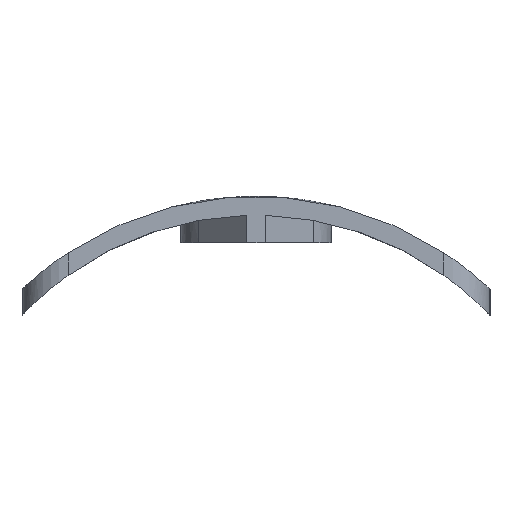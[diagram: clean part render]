
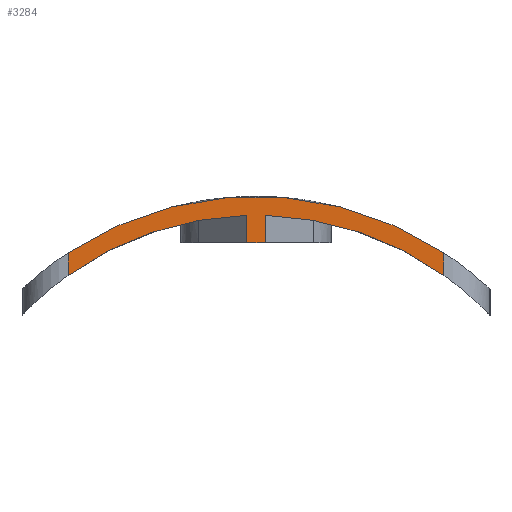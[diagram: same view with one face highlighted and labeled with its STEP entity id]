
A CAD part, left-side view. The second image highlights one B-rep face of the part: STEP entity #3284.
In plain terms, the highlighted planar face has unit normal (-1, 0, 0).
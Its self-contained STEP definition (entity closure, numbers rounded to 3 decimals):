
#22 = VERTEX_POINT('',#23);
#23 = CARTESIAN_POINT('',(96.3,11.,16.703));
#61 = CYLINDRICAL_SURFACE('',#62,20.);
#62 = AXIS2_PLACEMENT_3D('',#63,#64,#65);
#63 = CARTESIAN_POINT('',(95.,0.,0.));
#64 = DIRECTION('',(1.,0.,0.));
#65 = DIRECTION('',(-0.,0.,1.));
#102 = CYLINDRICAL_SURFACE('',#103,2.7);
#103 = AXIS2_PLACEMENT_3D('',#104,#105,#106);
#104 = CARTESIAN_POINT('',(99.,11.,5.));
#105 = DIRECTION('',(0.,0.,1.));
#106 = DIRECTION('',(-1.,-0.,0.));
#143 = EDGE_CURVE('',#22,#144,#146,.T.);
#144 = VERTEX_POINT('',#145);
#145 = CARTESIAN_POINT('',(96.3,-11.,16.703));
#146 = SURFACE_CURVE('',#147,(#152,#159),.PCURVE_S1.);
#147 = CIRCLE('',#148,20.);
#148 = AXIS2_PLACEMENT_3D('',#149,#150,#151);
#149 = CARTESIAN_POINT('',(96.3,0.,0.));
#150 = DIRECTION('',(1.,0.,0.));
#151 = DIRECTION('',(-0.,0.55,0.835));
#152 = PCURVE('',#61,#153);
#153 = DEFINITIONAL_REPRESENTATION('',(#154),#158);
#154 = LINE('',#155,#156);
#155 = CARTESIAN_POINT('',(5.701,1.3));
#156 = VECTOR('',#157,1.);
#157 = DIRECTION('',(1.,0.));
#158 = ( GEOMETRIC_REPRESENTATION_CONTEXT(2) 
PARAMETRIC_REPRESENTATION_CONTEXT() REPRESENTATION_CONTEXT('2D SPACE',''
  ) );
#159 = PCURVE('',#160,#165);
#160 = PLANE('',#161);
#161 = AXIS2_PLACEMENT_3D('',#162,#163,#164);
#162 = CARTESIAN_POINT('',(96.3,-13.7,5.));
#163 = DIRECTION('',(1.,0.,0.));
#164 = DIRECTION('',(0.,0.,1.));
#165 = DEFINITIONAL_REPRESENTATION('',(#166),#170);
#166 = CIRCLE('',#167,20.);
#167 = AXIS2_PLACEMENT_2D('',#168,#169);
#168 = CARTESIAN_POINT('',(-5.,-13.7));
#169 = DIRECTION('',(0.835,-0.55));
#170 = ( GEOMETRIC_REPRESENTATION_CONTEXT(2) 
PARAMETRIC_REPRESENTATION_CONTEXT() REPRESENTATION_CONTEXT('2D SPACE',''
  ) );
#246 = CYLINDRICAL_SURFACE('',#247,2.7);
#247 = AXIS2_PLACEMENT_3D('',#248,#249,#250);
#248 = CARTESIAN_POINT('',(99.,-11.,5.));
#249 = DIRECTION('',(0.,0.,1.));
#250 = DIRECTION('',(-1.,-0.,0.));
#1374 = PLANE('',#1375);
#1375 = AXIS2_PLACEMENT_3D('',#1376,#1377,#1378);
#1376 = CARTESIAN_POINT('',(102.5,0.,17.3));
#1377 = DIRECTION('',(0.,0.,1.));
#1378 = DIRECTION('',(1.,0.,-0.));
#1422 = VERTEX_POINT('',#1423);
#1423 = CARTESIAN_POINT('',(96.3,0.541,17.3));
#1437 = PLANE('',#1438);
#1438 = AXIS2_PLACEMENT_3D('',#1439,#1440,#1441);
#1439 = CARTESIAN_POINT('',(95.655,0.,17.3));
#1440 = DIRECTION('',(-0.643,0.766,0.));
#1441 = DIRECTION('',(0.766,0.643,0.));
#1449 = EDGE_CURVE('',#1422,#1450,#1452,.T.);
#1450 = VERTEX_POINT('',#1451);
#1451 = CARTESIAN_POINT('',(96.3,-0.541,17.3));
#1452 = SURFACE_CURVE('',#1453,(#1457,#1464),.PCURVE_S1.);
#1453 = LINE('',#1454,#1455);
#1454 = CARTESIAN_POINT('',(96.3,-10.,17.3));
#1455 = VECTOR('',#1456,1.);
#1456 = DIRECTION('',(0.,-1.,0.));
#1457 = PCURVE('',#1374,#1458);
#1458 = DEFINITIONAL_REPRESENTATION('',(#1459),#1463);
#1459 = LINE('',#1460,#1461);
#1460 = CARTESIAN_POINT('',(-6.2,-10.));
#1461 = VECTOR('',#1462,1.);
#1462 = DIRECTION('',(0.,-1.));
#1463 = ( GEOMETRIC_REPRESENTATION_CONTEXT(2) 
PARAMETRIC_REPRESENTATION_CONTEXT() REPRESENTATION_CONTEXT('2D SPACE',''
  ) );
#1464 = PCURVE('',#160,#1465);
#1465 = DEFINITIONAL_REPRESENTATION('',(#1466),#1470);
#1466 = LINE('',#1467,#1468);
#1467 = CARTESIAN_POINT('',(12.3,-3.7));
#1468 = VECTOR('',#1469,1.);
#1469 = DIRECTION('',(0.,1.));
#1470 = ( GEOMETRIC_REPRESENTATION_CONTEXT(2) 
PARAMETRIC_REPRESENTATION_CONTEXT() REPRESENTATION_CONTEXT('2D SPACE',''
  ) );
#1486 = PLANE('',#1487);
#1487 = AXIS2_PLACEMENT_3D('',#1488,#1489,#1490);
#1488 = CARTESIAN_POINT('',(99.672,-3.371,17.3));
#1489 = DIRECTION('',(-0.643,-0.766,0.));
#1490 = DIRECTION('',(-0.766,0.643,0.));
#1528 = VERTEX_POINT('',#1529);
#1529 = CARTESIAN_POINT('',(96.3,-0.541,18.892));
#1544 = CYLINDRICAL_SURFACE('',#1545,18.9);
#1545 = AXIS2_PLACEMENT_3D('',#1546,#1547,#1548);
#1546 = CARTESIAN_POINT('',(94.,0.,0.));
#1547 = DIRECTION('',(1.,0.,0.));
#1548 = DIRECTION('',(-0.,0.,1.));
#1559 = EDGE_CURVE('',#1450,#1528,#1560,.T.);
#1560 = SURFACE_CURVE('',#1561,(#1565,#1571),.PCURVE_S1.);
#1561 = LINE('',#1562,#1563);
#1562 = CARTESIAN_POINT('',(96.3,-0.541,8.65));
#1563 = VECTOR('',#1564,1.);
#1564 = DIRECTION('',(0.,0.,1.));
#1565 = PCURVE('',#1486,#1566);
#1566 = DEFINITIONAL_REPRESENTATION('',(#1567),#1570);
#1567 = B_SPLINE_CURVE_WITH_KNOTS('',1,(#1568,#1569),.UNSPECIFIED.,.F.,
  .F.,(2,2),(8.65,10.55),.PIECEWISE_BEZIER_KNOTS.);
#1568 = CARTESIAN_POINT('',(4.401,0.));
#1569 = CARTESIAN_POINT('',(4.401,-1.9));
#1570 = ( GEOMETRIC_REPRESENTATION_CONTEXT(2) 
PARAMETRIC_REPRESENTATION_CONTEXT() REPRESENTATION_CONTEXT('2D SPACE',''
  ) );
#1571 = PCURVE('',#160,#1572);
#1572 = DEFINITIONAL_REPRESENTATION('',(#1573),#1577);
#1573 = LINE('',#1574,#1575);
#1574 = CARTESIAN_POINT('',(3.65,-13.159));
#1575 = VECTOR('',#1576,1.);
#1576 = DIRECTION('',(1.,0.));
#1577 = ( GEOMETRIC_REPRESENTATION_CONTEXT(2) 
PARAMETRIC_REPRESENTATION_CONTEXT() REPRESENTATION_CONTEXT('2D SPACE',''
  ) );
#1841 = EDGE_CURVE('',#1528,#1842,#1844,.T.);
#1842 = VERTEX_POINT('',#1843);
#1843 = CARTESIAN_POINT('',(96.3,-11.,15.369));
#1844 = SURFACE_CURVE('',#1845,(#1850,#1856),.PCURVE_S1.);
#1845 = CIRCLE('',#1846,18.9);
#1846 = AXIS2_PLACEMENT_3D('',#1847,#1848,#1849);
#1847 = CARTESIAN_POINT('',(96.3,0.,0.));
#1848 = DIRECTION('',(1.,0.,0.));
#1849 = DIRECTION('',(-0.,0.,1.));
#1850 = PCURVE('',#1544,#1851);
#1851 = DEFINITIONAL_REPRESENTATION('',(#1852),#1855);
#1852 = B_SPLINE_CURVE_WITH_KNOTS('',1,(#1853,#1854),.UNSPECIFIED.,.F.,
  .F.,(2,2),(0.029,0.621),
  .PIECEWISE_BEZIER_KNOTS.);
#1853 = CARTESIAN_POINT('',(6.312,2.3));
#1854 = CARTESIAN_POINT('',(6.904,2.3));
#1855 = ( GEOMETRIC_REPRESENTATION_CONTEXT(2) 
PARAMETRIC_REPRESENTATION_CONTEXT() REPRESENTATION_CONTEXT('2D SPACE',''
  ) );
#1856 = PCURVE('',#160,#1857);
#1857 = DEFINITIONAL_REPRESENTATION('',(#1858),#1862);
#1858 = CIRCLE('',#1859,18.9);
#1859 = AXIS2_PLACEMENT_2D('',#1860,#1861);
#1860 = CARTESIAN_POINT('',(-5.,-13.7));
#1861 = DIRECTION('',(1.,0.));
#1862 = ( GEOMETRIC_REPRESENTATION_CONTEXT(2) 
PARAMETRIC_REPRESENTATION_CONTEXT() REPRESENTATION_CONTEXT('2D SPACE',''
  ) );
#2265 = VERTEX_POINT('',#2266);
#2266 = CARTESIAN_POINT('',(96.3,11.,15.369));
#2374 = EDGE_CURVE('',#2265,#2375,#2377,.T.);
#2375 = VERTEX_POINT('',#2376);
#2376 = CARTESIAN_POINT('',(96.3,0.541,18.892));
#2377 = SURFACE_CURVE('',#2378,(#2383,#2389),.PCURVE_S1.);
#2378 = CIRCLE('',#2379,18.9);
#2379 = AXIS2_PLACEMENT_3D('',#2380,#2381,#2382);
#2380 = CARTESIAN_POINT('',(96.3,0.,0.));
#2381 = DIRECTION('',(1.,0.,0.));
#2382 = DIRECTION('',(-0.,0.,1.));
#2383 = PCURVE('',#1544,#2384);
#2384 = DEFINITIONAL_REPRESENTATION('',(#2385),#2388);
#2385 = B_SPLINE_CURVE_WITH_KNOTS('',1,(#2386,#2387),.UNSPECIFIED.,.F.,
  .F.,(2,2),(5.662,6.255),.PIECEWISE_BEZIER_KNOTS.);
#2386 = CARTESIAN_POINT('',(5.662,2.3));
#2387 = CARTESIAN_POINT('',(6.255,2.3));
#2388 = ( GEOMETRIC_REPRESENTATION_CONTEXT(2) 
PARAMETRIC_REPRESENTATION_CONTEXT() REPRESENTATION_CONTEXT('2D SPACE',''
  ) );
#2389 = PCURVE('',#160,#2390);
#2390 = DEFINITIONAL_REPRESENTATION('',(#2391),#2395);
#2391 = CIRCLE('',#2392,18.9);
#2392 = AXIS2_PLACEMENT_2D('',#2393,#2394);
#2393 = CARTESIAN_POINT('',(-5.,-13.7));
#2394 = DIRECTION('',(1.,0.));
#2395 = ( GEOMETRIC_REPRESENTATION_CONTEXT(2) 
PARAMETRIC_REPRESENTATION_CONTEXT() REPRESENTATION_CONTEXT('2D SPACE',''
  ) );
#3028 = EDGE_CURVE('',#2375,#1422,#3029,.T.);
#3029 = SURFACE_CURVE('',#3030,(#3034,#3040),.PCURVE_S1.);
#3030 = LINE('',#3031,#3032);
#3031 = CARTESIAN_POINT('',(96.3,0.541,8.65));
#3032 = VECTOR('',#3033,1.);
#3033 = DIRECTION('',(-0.,0.,-1.));
#3034 = PCURVE('',#1437,#3035);
#3035 = DEFINITIONAL_REPRESENTATION('',(#3036),#3039);
#3036 = B_SPLINE_CURVE_WITH_KNOTS('',1,(#3037,#3038),.UNSPECIFIED.,.F.,
  .F.,(2,2),(-10.55,-8.65),.PIECEWISE_BEZIER_KNOTS.);
#3037 = CARTESIAN_POINT('',(0.842,-1.9));
#3038 = CARTESIAN_POINT('',(0.842,0.));
#3039 = ( GEOMETRIC_REPRESENTATION_CONTEXT(2) 
PARAMETRIC_REPRESENTATION_CONTEXT() REPRESENTATION_CONTEXT('2D SPACE',''
  ) );
#3040 = PCURVE('',#160,#3041);
#3041 = DEFINITIONAL_REPRESENTATION('',(#3042),#3046);
#3042 = LINE('',#3043,#3044);
#3043 = CARTESIAN_POINT('',(3.65,-14.241));
#3044 = VECTOR('',#3045,1.);
#3045 = DIRECTION('',(-1.,-0.));
#3046 = ( GEOMETRIC_REPRESENTATION_CONTEXT(2) 
PARAMETRIC_REPRESENTATION_CONTEXT() REPRESENTATION_CONTEXT('2D SPACE',''
  ) );
#3261 = EDGE_CURVE('',#1842,#144,#3262,.T.);
#3262 = SURFACE_CURVE('',#3263,(#3267,#3274),.PCURVE_S1.);
#3263 = LINE('',#3264,#3265);
#3264 = CARTESIAN_POINT('',(96.3,-11.,5.));
#3265 = VECTOR('',#3266,1.);
#3266 = DIRECTION('',(0.,0.,1.));
#3267 = PCURVE('',#246,#3268);
#3268 = DEFINITIONAL_REPRESENTATION('',(#3269),#3273);
#3269 = LINE('',#3270,#3271);
#3270 = CARTESIAN_POINT('',(0.,0.));
#3271 = VECTOR('',#3272,1.);
#3272 = DIRECTION('',(0.,1.));
#3273 = ( GEOMETRIC_REPRESENTATION_CONTEXT(2) 
PARAMETRIC_REPRESENTATION_CONTEXT() REPRESENTATION_CONTEXT('2D SPACE',''
  ) );
#3274 = PCURVE('',#160,#3275);
#3275 = DEFINITIONAL_REPRESENTATION('',(#3276),#3280);
#3276 = LINE('',#3277,#3278);
#3277 = CARTESIAN_POINT('',(0.,-2.7));
#3278 = VECTOR('',#3279,1.);
#3279 = DIRECTION('',(1.,0.));
#3280 = ( GEOMETRIC_REPRESENTATION_CONTEXT(2) 
PARAMETRIC_REPRESENTATION_CONTEXT() REPRESENTATION_CONTEXT('2D SPACE',''
  ) );
#3284 = ADVANCED_FACE('',(#3285),#160,.F.);
#3285 = FACE_BOUND('',#3286,.F.);
#3286 = EDGE_LOOP('',(#3287,#3288,#3289,#3290,#3291,#3292,#3293,#3294));
#3287 = ORIENTED_EDGE('',*,*,#143,.T.);
#3288 = ORIENTED_EDGE('',*,*,#3261,.F.);
#3289 = ORIENTED_EDGE('',*,*,#1841,.F.);
#3290 = ORIENTED_EDGE('',*,*,#1559,.F.);
#3291 = ORIENTED_EDGE('',*,*,#1449,.F.);
#3292 = ORIENTED_EDGE('',*,*,#3028,.F.);
#3293 = ORIENTED_EDGE('',*,*,#2374,.F.);
#3294 = ORIENTED_EDGE('',*,*,#3295,.T.);
#3295 = EDGE_CURVE('',#2265,#22,#3296,.T.);
#3296 = SURFACE_CURVE('',#3297,(#3301,#3308),.PCURVE_S1.);
#3297 = LINE('',#3298,#3299);
#3298 = CARTESIAN_POINT('',(96.3,11.,5.));
#3299 = VECTOR('',#3300,1.);
#3300 = DIRECTION('',(0.,0.,1.));
#3301 = PCURVE('',#160,#3302);
#3302 = DEFINITIONAL_REPRESENTATION('',(#3303),#3307);
#3303 = LINE('',#3304,#3305);
#3304 = CARTESIAN_POINT('',(0.,-24.7));
#3305 = VECTOR('',#3306,1.);
#3306 = DIRECTION('',(1.,0.));
#3307 = ( GEOMETRIC_REPRESENTATION_CONTEXT(2) 
PARAMETRIC_REPRESENTATION_CONTEXT() REPRESENTATION_CONTEXT('2D SPACE',''
  ) );
#3308 = PCURVE('',#102,#3309);
#3309 = DEFINITIONAL_REPRESENTATION('',(#3310),#3314);
#3310 = LINE('',#3311,#3312);
#3311 = CARTESIAN_POINT('',(-0.,0.));
#3312 = VECTOR('',#3313,1.);
#3313 = DIRECTION('',(-0.,1.));
#3314 = ( GEOMETRIC_REPRESENTATION_CONTEXT(2) 
PARAMETRIC_REPRESENTATION_CONTEXT() REPRESENTATION_CONTEXT('2D SPACE',''
  ) );
